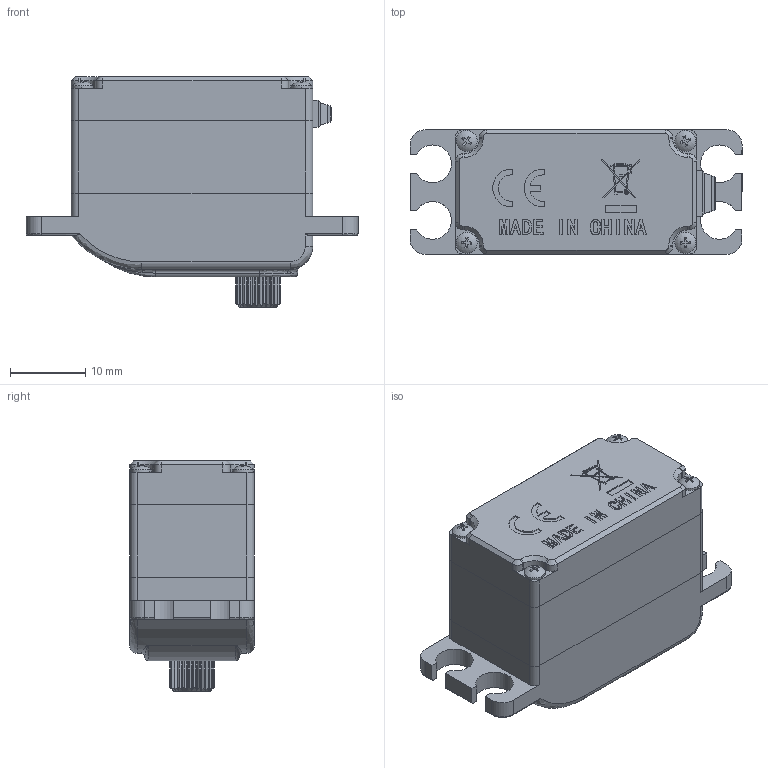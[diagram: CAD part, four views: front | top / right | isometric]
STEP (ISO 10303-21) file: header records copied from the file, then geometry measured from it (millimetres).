
FILE_DESCRIPTION (( 'STEP AP214' ), '1' );
FILE_NAME ('DS165_DM_20230713.STEP', '2023-08-16T12:41:00', ( '' ), ( '' ), 'SwSTEP 2.0', 'SolidWorks 2016', '' );
FILE_SCHEMA (( 'AUTOMOTIVE_DESIGN' ));
Length unit declared in the file: millimetre
Products named in the file (1): DS165_DM_20230713
Bounding box: 44 x 16.5 x 30.5 mm (x, y, z)
Surface area: 4119.2 mm2 (no closed solid volume)
Topology: 0 solids, 9 shells, 564 faces, 1633 edges, 1073 vertices
Faces by surface type: plane 366, cylinder 146, bspline 32, cone 16, sphere 4
Entity records: 26170 total; most frequent: CARTESIAN_POINT 5348, ORIENTED_EDGE 3038, DIRECTION 2879, EDGE_CURVE 1633, LINE 1157, VECTOR 1157, VERTEX_POINT 1073, AXIS2_PLACEMENT_3D 861
